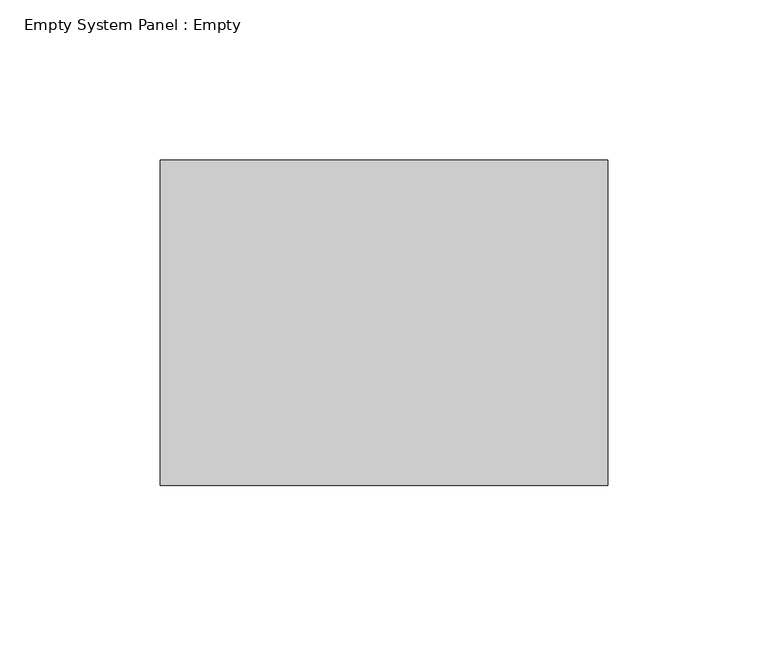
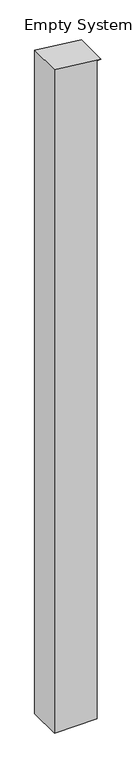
"""IFC4 building model written with IfcOpenShell, lengths in millimetres: plate geometry, Empty System Panel : Empty."""

from ifc_helpers import new_model, si_unit, frame, origin, place, context, project, spatial, polyline, outline, extrude, source, transform, mapped, element, save


def empty_system_panel_empty_1e81fc64(model_context):
    return source(origin(), model_context, "Body", "SweptSolid", [
        extrude(outline(polyline([(0.0, -69.85), (0.0, 57.15), (2076.5758808, 57.15), (2076.5758808, 69.85), (2092.2010707, -69.85), (0.0, -69.85)])), frame((0.0, -50.8, 0.0), z_axis=(0.0, 1.0, 0.0), x_axis=(0.0, 0.0, 1.0)), (0.0, 0.0, 1.0), 101.6),
    ])


if __name__ == "__main__":
    model = new_model("IFC4")
    model_context = context("Model", 3, world=origin())
    ifc_project = project(units=[si_unit("LENGTHUNIT", "METRE", prefix="MILLI")], contexts=[model_context])
    site = spatial("IfcSite", under=ifc_project)
    building = spatial("IfcBuilding", under=site)
    placement = place(None, origin())
    empty_system_panel_empty_shape = empty_system_panel_empty_1e81fc64(model_context)
    element("IfcPlate", 1, ObjectType="Empty System Panel : Empty", at=placement, inside=building, context=model_context, shape_type="MappedRepresentation", body=[
        mapped(empty_system_panel_empty_shape, transform((0.0, 0.0, 0.0), x_axis=(1.0, 0.0, 0.0), y_axis=(0.0, 1.0, 0.0), z_axis=(0.0, 0.0, 1.0))),
    ])
    save(model, "model.ifc")
